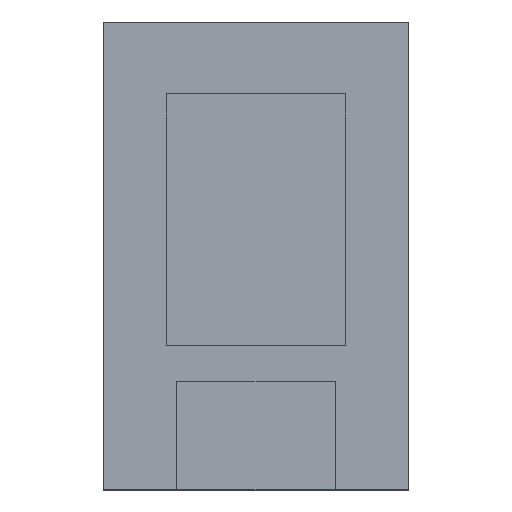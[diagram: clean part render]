
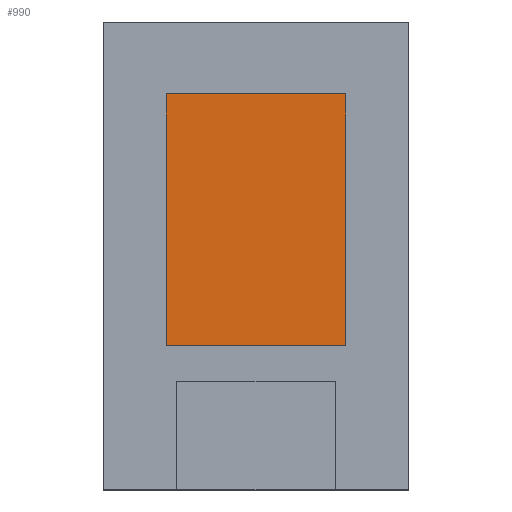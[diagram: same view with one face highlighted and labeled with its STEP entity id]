
A CAD part, top view. The second image highlights one B-rep face of the part: STEP entity #990.
In plain terms, the highlighted planar face has unit normal (0, 0, 1).
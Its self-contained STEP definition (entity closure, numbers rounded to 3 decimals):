
#481 = PLANE('',#482);
#482 = AXIS2_PLACEMENT_3D('',#483,#484,#485);
#483 = CARTESIAN_POINT('',(-25.,-24.,6.8));
#484 = DIRECTION('',(1.,0.,0.));
#485 = DIRECTION('',(0.,0.,1.));
#509 = PLANE('',#510);
#510 = AXIS2_PLACEMENT_3D('',#511,#512,#513);
#511 = CARTESIAN_POINT('',(-25.,-10.,6.8));
#512 = DIRECTION('',(0.,1.,0.));
#513 = DIRECTION('',(0.,0.,1.));
#537 = PLANE('',#538);
#538 = AXIS2_PLACEMENT_3D('',#539,#540,#541);
#539 = CARTESIAN_POINT('',(-15.,-24.,6.8));
#540 = DIRECTION('',(1.,0.,0.));
#541 = DIRECTION('',(0.,0.,1.));
#563 = PLANE('',#564);
#564 = AXIS2_PLACEMENT_3D('',#565,#566,#567);
#565 = CARTESIAN_POINT('',(-25.,-24.,6.8));
#566 = DIRECTION('',(0.,1.,0.));
#567 = DIRECTION('',(0.,0.,1.));
#787 = VERTEX_POINT('',#788);
#788 = CARTESIAN_POINT('',(-25.,-24.,9.));
#811 = VERTEX_POINT('',#812);
#812 = CARTESIAN_POINT('',(-25.,-10.,9.));
#833 = EDGE_CURVE('',#787,#811,#834,.T.);
#834 = SURFACE_CURVE('',#835,(#839,#846),.PCURVE_S1.);
#835 = LINE('',#836,#837);
#836 = CARTESIAN_POINT('',(-25.,-24.,9.));
#837 = VECTOR('',#838,1.);
#838 = DIRECTION('',(0.,1.,0.));
#839 = PCURVE('',#481,#840);
#840 = DEFINITIONAL_REPRESENTATION('',(#841),#845);
#841 = LINE('',#842,#843);
#842 = CARTESIAN_POINT('',(2.2,0.));
#843 = VECTOR('',#844,1.);
#844 = DIRECTION('',(0.,-1.));
#845 = ( GEOMETRIC_REPRESENTATION_CONTEXT(2) 
PARAMETRIC_REPRESENTATION_CONTEXT() REPRESENTATION_CONTEXT('2D SPACE',''
  ) );
#846 = PCURVE('',#847,#852);
#847 = PLANE('',#848);
#848 = AXIS2_PLACEMENT_3D('',#849,#850,#851);
#849 = CARTESIAN_POINT('',(-25.,-24.,9.));
#850 = DIRECTION('',(0.,0.,1.));
#851 = DIRECTION('',(1.,0.,0.));
#852 = DEFINITIONAL_REPRESENTATION('',(#853),#857);
#853 = LINE('',#854,#855);
#854 = CARTESIAN_POINT('',(0.,0.));
#855 = VECTOR('',#856,1.);
#856 = DIRECTION('',(0.,1.));
#857 = ( GEOMETRIC_REPRESENTATION_CONTEXT(2) 
PARAMETRIC_REPRESENTATION_CONTEXT() REPRESENTATION_CONTEXT('2D SPACE',''
  ) );
#864 = EDGE_CURVE('',#787,#865,#867,.T.);
#865 = VERTEX_POINT('',#866);
#866 = CARTESIAN_POINT('',(-15.,-24.,9.));
#867 = SURFACE_CURVE('',#868,(#872,#879),.PCURVE_S1.);
#868 = LINE('',#869,#870);
#869 = CARTESIAN_POINT('',(-25.,-24.,9.));
#870 = VECTOR('',#871,1.);
#871 = DIRECTION('',(1.,0.,0.));
#872 = PCURVE('',#563,#873);
#873 = DEFINITIONAL_REPRESENTATION('',(#874),#878);
#874 = LINE('',#875,#876);
#875 = CARTESIAN_POINT('',(2.2,0.));
#876 = VECTOR('',#877,1.);
#877 = DIRECTION('',(0.,1.));
#878 = ( GEOMETRIC_REPRESENTATION_CONTEXT(2) 
PARAMETRIC_REPRESENTATION_CONTEXT() REPRESENTATION_CONTEXT('2D SPACE',''
  ) );
#879 = PCURVE('',#847,#880);
#880 = DEFINITIONAL_REPRESENTATION('',(#881),#885);
#881 = LINE('',#882,#883);
#882 = CARTESIAN_POINT('',(0.,0.));
#883 = VECTOR('',#884,1.);
#884 = DIRECTION('',(1.,0.));
#885 = ( GEOMETRIC_REPRESENTATION_CONTEXT(2) 
PARAMETRIC_REPRESENTATION_CONTEXT() REPRESENTATION_CONTEXT('2D SPACE',''
  ) );
#914 = VERTEX_POINT('',#915);
#915 = CARTESIAN_POINT('',(-15.,-10.,9.));
#936 = EDGE_CURVE('',#865,#914,#937,.T.);
#937 = SURFACE_CURVE('',#938,(#942,#949),.PCURVE_S1.);
#938 = LINE('',#939,#940);
#939 = CARTESIAN_POINT('',(-15.,-24.,9.));
#940 = VECTOR('',#941,1.);
#941 = DIRECTION('',(0.,1.,0.));
#942 = PCURVE('',#537,#943);
#943 = DEFINITIONAL_REPRESENTATION('',(#944),#948);
#944 = LINE('',#945,#946);
#945 = CARTESIAN_POINT('',(2.2,0.));
#946 = VECTOR('',#947,1.);
#947 = DIRECTION('',(0.,-1.));
#948 = ( GEOMETRIC_REPRESENTATION_CONTEXT(2) 
PARAMETRIC_REPRESENTATION_CONTEXT() REPRESENTATION_CONTEXT('2D SPACE',''
  ) );
#949 = PCURVE('',#847,#950);
#950 = DEFINITIONAL_REPRESENTATION('',(#951),#955);
#951 = LINE('',#952,#953);
#952 = CARTESIAN_POINT('',(10.,0.));
#953 = VECTOR('',#954,1.);
#954 = DIRECTION('',(0.,1.));
#955 = ( GEOMETRIC_REPRESENTATION_CONTEXT(2) 
PARAMETRIC_REPRESENTATION_CONTEXT() REPRESENTATION_CONTEXT('2D SPACE',''
  ) );
#962 = EDGE_CURVE('',#811,#914,#963,.T.);
#963 = SURFACE_CURVE('',#964,(#968,#975),.PCURVE_S1.);
#964 = LINE('',#965,#966);
#965 = CARTESIAN_POINT('',(-25.,-10.,9.));
#966 = VECTOR('',#967,1.);
#967 = DIRECTION('',(1.,0.,0.));
#968 = PCURVE('',#509,#969);
#969 = DEFINITIONAL_REPRESENTATION('',(#970),#974);
#970 = LINE('',#971,#972);
#971 = CARTESIAN_POINT('',(2.2,0.));
#972 = VECTOR('',#973,1.);
#973 = DIRECTION('',(0.,1.));
#974 = ( GEOMETRIC_REPRESENTATION_CONTEXT(2) 
PARAMETRIC_REPRESENTATION_CONTEXT() REPRESENTATION_CONTEXT('2D SPACE',''
  ) );
#975 = PCURVE('',#847,#976);
#976 = DEFINITIONAL_REPRESENTATION('',(#977),#981);
#977 = LINE('',#978,#979);
#978 = CARTESIAN_POINT('',(0.,14.));
#979 = VECTOR('',#980,1.);
#980 = DIRECTION('',(1.,0.));
#981 = ( GEOMETRIC_REPRESENTATION_CONTEXT(2) 
PARAMETRIC_REPRESENTATION_CONTEXT() REPRESENTATION_CONTEXT('2D SPACE',''
  ) );
#990 = ADVANCED_FACE('',(#991),#847,.T.);
#991 = FACE_BOUND('',#992,.T.);
#992 = EDGE_LOOP('',(#993,#994,#995,#996));
#993 = ORIENTED_EDGE('',*,*,#833,.F.);
#994 = ORIENTED_EDGE('',*,*,#864,.T.);
#995 = ORIENTED_EDGE('',*,*,#936,.T.);
#996 = ORIENTED_EDGE('',*,*,#962,.F.);
